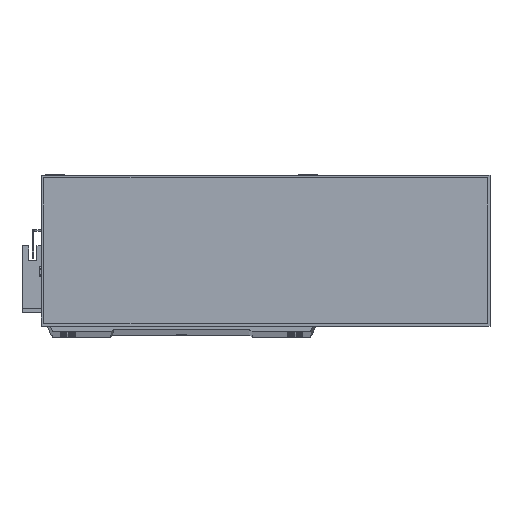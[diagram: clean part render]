
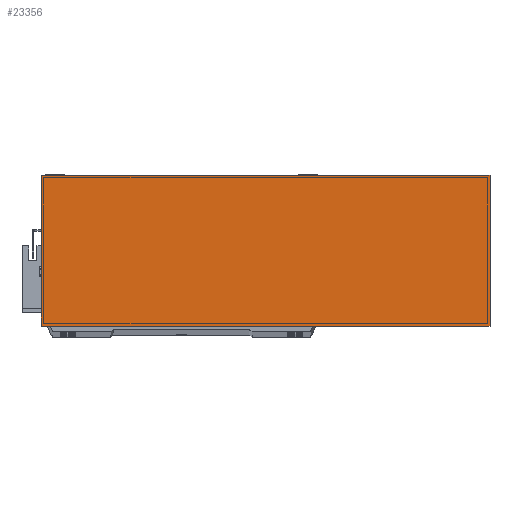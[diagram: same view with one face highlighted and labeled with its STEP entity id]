
A CAD part, top view. The second image highlights one B-rep face of the part: STEP entity #23356.
In plain terms, the highlighted planar face has unit normal (0, 0, 1).
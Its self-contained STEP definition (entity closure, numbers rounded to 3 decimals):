
#493 = DIRECTION ( 'NONE',  ( 0., 1., 0. ) ) ;
#566 = VERTEX_POINT ( 'NONE', #3628 ) ;
#1824 = CARTESIAN_POINT ( 'NONE',  ( 0., 0., 50. ) ) ;
#3628 = CARTESIAN_POINT ( 'NONE',  ( 0., 93., 50. ) ) ;
#4143 = VECTOR ( 'NONE', #23654, 1000. ) ;
#5926 = CARTESIAN_POINT ( 'NONE',  ( 0., 0., 50. ) ) ;
#6445 = DIRECTION ( 'NONE',  ( 0., -1., 0. ) ) ;
#7088 = AXIS2_PLACEMENT_3D ( 'NONE', #26760, #26879, #12246 ) ;
#7277 = VERTEX_POINT ( 'NONE', #14735 ) ;
#7515 = VECTOR ( 'NONE', #6445, 1000. ) ;
#8928 = CARTESIAN_POINT ( 'NONE',  ( 0., 0., 50. ) ) ;
#9826 = PLANE ( 'NONE',  #7088 ) ;
#9877 = LINE ( 'NONE', #1824, #4143 ) ;
#12246 = DIRECTION ( 'NONE',  ( -1., 0., 0. ) ) ;
#12673 = EDGE_CURVE ( 'NONE', #566, #17644, #20461, .T. ) ;
#12827 = ORIENTED_EDGE ( 'NONE', *, *, #23651, .T. ) ;
#14713 = ORIENTED_EDGE ( 'NONE', *, *, #23855, .T. ) ;
#14735 = CARTESIAN_POINT ( 'NONE',  ( 277., 0., 50. ) ) ;
#16179 = ORIENTED_EDGE ( 'NONE', *, *, #12673, .T. ) ;
#16251 = EDGE_LOOP ( 'NONE', ( #16179, #18036, #12827, #14713 ) ) ;
#17644 = VERTEX_POINT ( 'NONE', #5926 ) ;
#18023 = VECTOR ( 'NONE', #493, 1000. ) ;
#18036 = ORIENTED_EDGE ( 'NONE', *, *, #20660, .T. ) ;
#19819 = CARTESIAN_POINT ( 'NONE',  ( 277., 0., 50. ) ) ;
#19946 = VECTOR ( 'NONE', #28014, 1000. ) ;
#19961 = VERTEX_POINT ( 'NONE', #20390 ) ;
#20390 = CARTESIAN_POINT ( 'NONE',  ( 277., 93., 50. ) ) ;
#20461 = LINE ( 'NONE', #8928, #7515 ) ;
#20660 = EDGE_CURVE ( 'NONE', #17644, #7277, #9877, .T. ) ;
#20742 = FACE_OUTER_BOUND ( 'NONE', #16251, .T. ) ;
#23138 = CARTESIAN_POINT ( 'NONE',  ( 0., 93., 50. ) ) ;
#23356 = ADVANCED_FACE ( 'NONE', ( #20742 ), #9826, .F. ) ;
#23651 = EDGE_CURVE ( 'NONE', #7277, #19961, #26061, .T. ) ;
#23654 = DIRECTION ( 'NONE',  ( 1., 0., 0. ) ) ;
#23855 = EDGE_CURVE ( 'NONE', #19961, #566, #26438, .T. ) ;
#26061 = LINE ( 'NONE', #19819, #18023 ) ;
#26438 = LINE ( 'NONE', #23138, #19946 ) ;
#26760 = CARTESIAN_POINT ( 'NONE',  ( 0., 0., 50. ) ) ;
#26879 = DIRECTION ( 'NONE',  ( 0., 0., -1. ) ) ;
#28014 = DIRECTION ( 'NONE',  ( -1., 0., 0. ) ) ;
